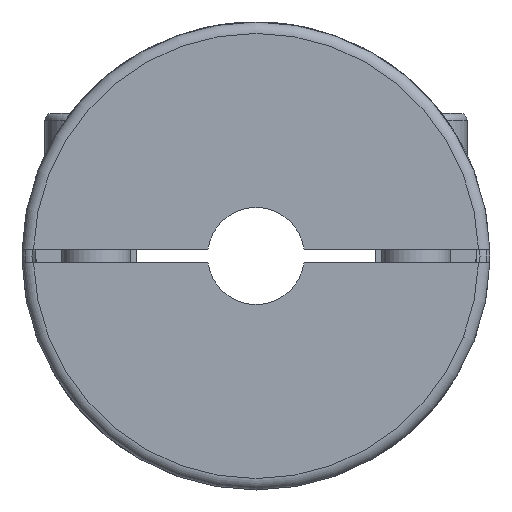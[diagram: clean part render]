
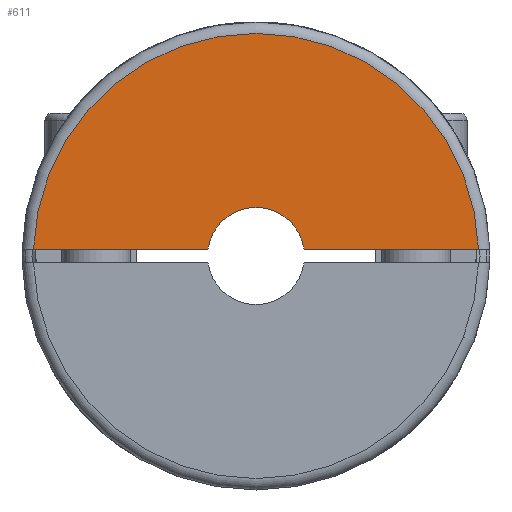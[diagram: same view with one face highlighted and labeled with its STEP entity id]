
A CAD part, left-side view. The second image highlights one B-rep face of the part: STEP entity #611.
In plain terms, the highlighted planar face has unit normal (-1, 0, 0).
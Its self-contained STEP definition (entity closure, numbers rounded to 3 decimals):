
#611 = ADVANCED_FACE( '', ( #1435 ), #1436, .F. );
#1435 = FACE_OUTER_BOUND( '', #2427, .T. );
#1436 = PLANE( '', #2428 );
#2427 = EDGE_LOOP( '', ( #3950, #3951, #3952, #3953 ) );
#2428 = AXIS2_PLACEMENT_3D( '', #3954, #3955, #3956 );
#3950 = ORIENTED_EDGE( '', *, *, #5155, .F. );
#3951 = ORIENTED_EDGE( '', *, *, #5156, .F. );
#3952 = ORIENTED_EDGE( '', *, *, #4680, .T. );
#3953 = ORIENTED_EDGE( '', *, *, #5032, .F. );
#3954 = CARTESIAN_POINT( '', ( -177., 0., 8.5 ) );
#3955 = DIRECTION( '', ( 1., 0., 0. ) );
#3956 = DIRECTION( '', ( 0., 0., 1. ) );
#4680 = EDGE_CURVE( '', #5359, #5363, #5365, .T. );
#5032 = EDGE_CURVE( '', #5925, #5363, #5927, .T. );
#5155 = EDGE_CURVE( '', #6090, #5925, #6091, .T. );
#5156 = EDGE_CURVE( '', #5359, #6090, #6092, .T. );
#5359 = VERTEX_POINT( '', #6339 );
#5363 = VERTEX_POINT( '', #6344 );
#5365 = CIRCLE( '', #6347, 8.5 );
#5925 = VERTEX_POINT( '', #7836 );
#5927 = LINE( '', #7851, #7852 );
#6090 = VERTEX_POINT( '', #8249 );
#6091 = CIRCLE( '', #8250, 39. );
#6092 = LINE( '', #8251, #8252 );
#6339 = CARTESIAN_POINT( '', ( -177., 8.415, 1.2 ) );
#6344 = CARTESIAN_POINT( '', ( -177., -8.415, 1.2 ) );
#6347 = AXIS2_PLACEMENT_3D( '', #8541, #8542, #8543 );
#7836 = CARTESIAN_POINT( '', ( -177., -38.982, 1.2 ) );
#7851 = CARTESIAN_POINT( '', ( -177., 0., 1.2 ) );
#7852 = VECTOR( '', #9043, 1000. );
#8249 = CARTESIAN_POINT( '', ( -177., 38.982, 1.2 ) );
#8250 = AXIS2_PLACEMENT_3D( '', #9193, #9194, #9195 );
#8251 = CARTESIAN_POINT( '', ( -177., 0., 1.2 ) );
#8252 = VECTOR( '', #9196, 1000. );
#8541 = CARTESIAN_POINT( '', ( -177., 0., 0. ) );
#8542 = DIRECTION( '', ( 1., 0., 0. ) );
#8543 = DIRECTION( '', ( 0., 0., 1. ) );
#9043 = DIRECTION( '', ( 0., 1., 0. ) );
#9193 = CARTESIAN_POINT( '', ( -177., 0., 0. ) );
#9194 = DIRECTION( '', ( 1., 0., 0. ) );
#9195 = DIRECTION( '', ( 0., 0., 1. ) );
#9196 = DIRECTION( '', ( 0., 1., 0. ) );
